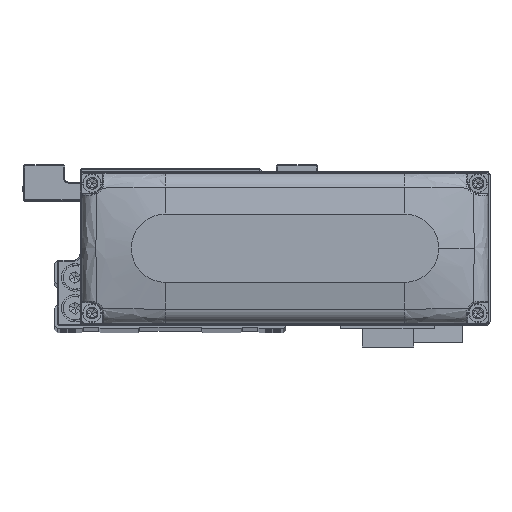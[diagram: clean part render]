
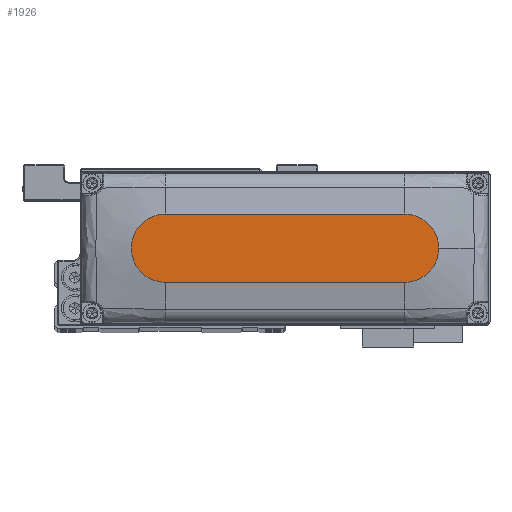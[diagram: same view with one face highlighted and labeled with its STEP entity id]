
A CAD part, top view. The second image highlights one B-rep face of the part: STEP entity #1926.
In plain terms, the highlighted planar face has unit normal (0, 0, 1).
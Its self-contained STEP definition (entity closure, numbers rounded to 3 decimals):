
#735 = FACE_OUTER_BOUND ( 'NONE', #23066, .T. ) ;
#1926 = ADVANCED_FACE ( 'NONE', ( #735 ), #13284, .T. ) ;
#2843 = DIRECTION ( 'NONE',  ( -1., 0., 0. ) ) ;
#3872 = DIRECTION ( 'NONE',  ( 0., 0., 1. ) ) ;
#5241 = EDGE_CURVE ( 'NONE', #6078, #26941, #34834, .T. ) ;
#6078 = VERTEX_POINT ( 'NONE', #32420 ) ;
#8922 = CARTESIAN_POINT ( 'NONE',  ( -35., -10., 28. ) ) ;
#9240 = AXIS2_PLACEMENT_3D ( 'NONE', #32051, #3872, #16424 ) ;
#9359 = DIRECTION ( 'NONE',  ( 1., 0., 0. ) ) ;
#9939 = CARTESIAN_POINT ( 'NONE',  ( 35., 0., 28. ) ) ;
#10227 = DIRECTION ( 'NONE',  ( 1., 0., 0. ) ) ;
#13284 = PLANE ( 'NONE',  #25029 ) ;
#13862 = ORIENTED_EDGE ( 'NONE', *, *, #5241, .T. ) ;
#13880 = ORIENTED_EDGE ( 'NONE', *, *, #19789, .T. ) ;
#14410 = EDGE_CURVE ( 'NONE', #19932, #33401, #26965, .T. ) ;
#16424 = DIRECTION ( 'NONE',  ( 1., 0., 0. ) ) ;
#17110 = AXIS2_PLACEMENT_3D ( 'NONE', #9939, #22455, #35010 ) ;
#18360 = CARTESIAN_POINT ( 'NONE',  ( -35., -10., 28. ) ) ;
#18484 = LINE ( 'NONE', #31025, #37930 ) ;
#19789 = EDGE_CURVE ( 'NONE', #26941, #19932, #18484, .T. ) ;
#19932 = VERTEX_POINT ( 'NONE', #22567 ) ;
#21394 = EDGE_CURVE ( 'NONE', #33401, #30557, #37101, .T. ) ;
#21463 = DIRECTION ( 'NONE',  ( 1., 0., 0. ) ) ;
#21869 = AXIS2_PLACEMENT_3D ( 'NONE', #24980, #37547, #9359 ) ;
#22132 = ORIENTED_EDGE ( 'NONE', *, *, #39850, .T. ) ;
#22455 = DIRECTION ( 'NONE',  ( 0., 0., 1. ) ) ;
#22567 = CARTESIAN_POINT ( 'NONE',  ( -35., 10., 28. ) ) ;
#23066 = EDGE_LOOP ( 'NONE', ( #13880, #37919, #31526, #22132, #13862 ) ) ;
#24052 = CARTESIAN_POINT ( 'NONE',  ( 35., 10., 28. ) ) ;
#24980 = CARTESIAN_POINT ( 'NONE',  ( 35., 0., 28. ) ) ;
#25029 = AXIS2_PLACEMENT_3D ( 'NONE', #25826, #38409, #10227 ) ;
#25826 = CARTESIAN_POINT ( 'NONE',  ( 0., 0., 28. ) ) ;
#26093 = VECTOR ( 'NONE', #21463, 1000. ) ;
#26941 = VERTEX_POINT ( 'NONE', #24052 ) ;
#26965 = CIRCLE ( 'NONE', #9240, 10. ) ;
#27445 = CARTESIAN_POINT ( 'NONE',  ( 35., -10., 28. ) ) ;
#30557 = VERTEX_POINT ( 'NONE', #27445 ) ;
#31025 = CARTESIAN_POINT ( 'NONE',  ( -35., 10., 28. ) ) ;
#31526 = ORIENTED_EDGE ( 'NONE', *, *, #21394, .T. ) ;
#32051 = CARTESIAN_POINT ( 'NONE',  ( -35., 0., 28. ) ) ;
#32420 = CARTESIAN_POINT ( 'NONE',  ( 45., 0., 28. ) ) ;
#33401 = VERTEX_POINT ( 'NONE', #18360 ) ;
#34834 = CIRCLE ( 'NONE', #17110, 10. ) ;
#35010 = DIRECTION ( 'NONE',  ( 1., 0., 0. ) ) ;
#37101 = LINE ( 'NONE', #8922, #26093 ) ;
#37547 = DIRECTION ( 'NONE',  ( 0., 0., 1. ) ) ;
#37919 = ORIENTED_EDGE ( 'NONE', *, *, #14410, .T. ) ;
#37930 = VECTOR ( 'NONE', #2843, 1000. ) ;
#38409 = DIRECTION ( 'NONE',  ( 0., 0., 1. ) ) ;
#39647 = CIRCLE ( 'NONE', #21869, 10. ) ;
#39850 = EDGE_CURVE ( 'NONE', #30557, #6078, #39647, .T. ) ;
